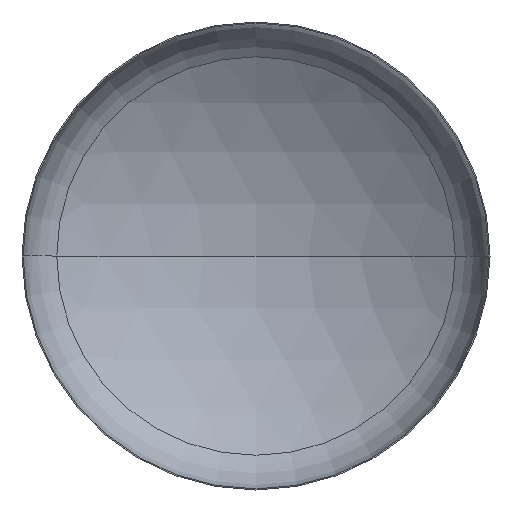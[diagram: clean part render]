
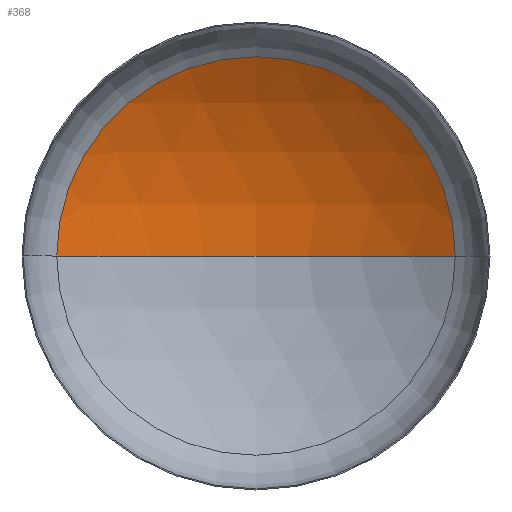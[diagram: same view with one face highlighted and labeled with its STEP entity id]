
A CAD part, front view. The second image highlights one B-rep face of the part: STEP entity #368.
In plain terms, the highlighted spherical face has radius 4400 mm.
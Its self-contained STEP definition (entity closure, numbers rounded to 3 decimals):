
#2 = CIRCLE ( 'NONE', #103, 4400. ) ;
#9 = SPHERICAL_SURFACE ( 'NONE', #54, 4400. ) ;
#36 = ORIENTED_EDGE ( 'NONE', *, *, #201, .T. ) ;
#54 = AXIS2_PLACEMENT_3D ( 'NONE', #247, #277, #119 ) ;
#93 = ORIENTED_EDGE ( 'NONE', *, *, #204, .T. ) ;
#96 = CIRCLE ( 'NONE', #113, 4400. ) ;
#102 = VERTEX_POINT ( 'NONE', #380 ) ;
#103 = AXIS2_PLACEMENT_3D ( 'NONE', #298, #105, #325 ) ;
#105 = DIRECTION ( 'NONE',  ( 0., 0., 1. ) ) ;
#113 = AXIS2_PLACEMENT_3D ( 'NONE', #350, #210, #410 ) ;
#119 = DIRECTION ( 'NONE',  ( -1., 0., 0. ) ) ;
#125 = AXIS2_PLACEMENT_3D ( 'NONE', #335, #152, #367 ) ;
#139 = ORIENTED_EDGE ( 'NONE', *, *, #206, .F. ) ;
#152 = DIRECTION ( 'NONE',  ( 0., -1., 0. ) ) ;
#172 = VERTEX_POINT ( 'NONE', #237 ) ;
#198 = EDGE_LOOP ( 'NONE', ( #139, #93, #36 ) ) ;
#201 = EDGE_CURVE ( 'NONE', #405, #102, #347, .T. ) ;
#204 = EDGE_CURVE ( 'NONE', #172, #405, #96, .T. ) ;
#206 = EDGE_CURVE ( 'NONE', #172, #102, #2, .T. ) ;
#210 = DIRECTION ( 'NONE',  ( 0., 0., -1. ) ) ;
#237 = CARTESIAN_POINT ( 'NONE',  ( 0., 1430.289, 0. ) ) ;
#247 = CARTESIAN_POINT ( 'NONE',  ( 0., -2969.711, 0. ) ) ;
#276 = FACE_OUTER_BOUND ( 'NONE', #198, .T. ) ;
#277 = DIRECTION ( 'NONE',  ( 0., 0., -1. ) ) ;
#278 = CARTESIAN_POINT ( 'NONE',  ( 2341.716, 755.388, 0. ) ) ;
#298 = CARTESIAN_POINT ( 'NONE',  ( 0., -2969.711, 0. ) ) ;
#325 = DIRECTION ( 'NONE',  ( 1., 0., 0. ) ) ;
#335 = CARTESIAN_POINT ( 'NONE',  ( 0., 755.388, 0. ) ) ;
#347 = CIRCLE ( 'NONE', #125, 2341.716 ) ;
#350 = CARTESIAN_POINT ( 'NONE',  ( 0., -2969.711, 0. ) ) ;
#367 = DIRECTION ( 'NONE',  ( 1., 0., 0. ) ) ;
#368 = ADVANCED_FACE ( 'NONE', ( #276 ), #9, .F. ) ;
#380 = CARTESIAN_POINT ( 'NONE',  ( -2341.716, 755.388, 0. ) ) ;
#405 = VERTEX_POINT ( 'NONE', #278 ) ;
#410 = DIRECTION ( 'NONE',  ( -1., 0., 0. ) ) ;
